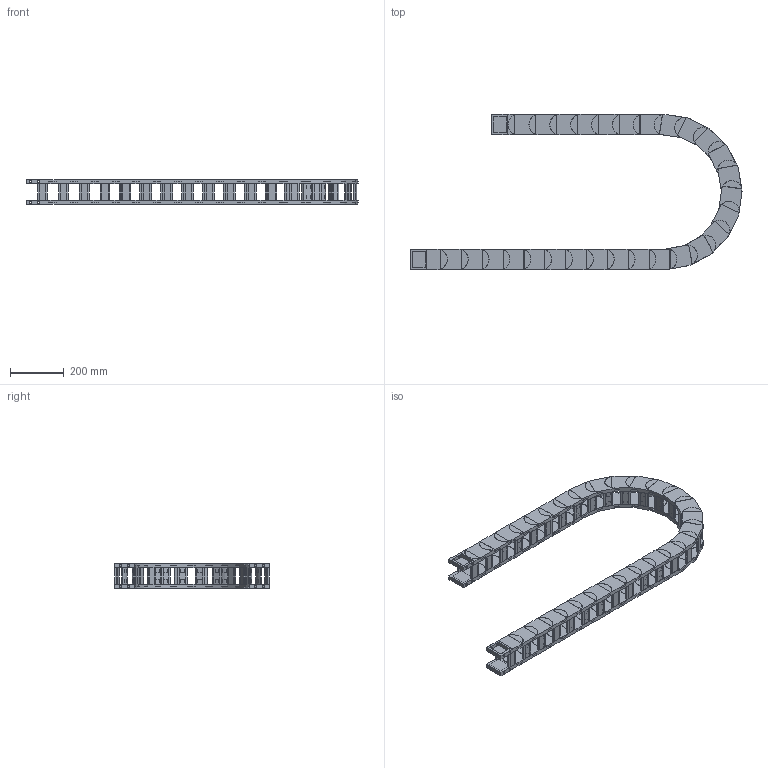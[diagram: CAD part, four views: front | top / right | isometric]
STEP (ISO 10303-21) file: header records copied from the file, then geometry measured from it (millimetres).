
FILE_DESCRIPTION((''),'2;1');
FILE_NAME('HD55-R250-ZPT_ASM','2022-06-17T19:52:44',('admin'),(''),'CREO PARAMETRIC BY PTC INC, 2021164','CREO PARAMETRIC BY PTC INC, 2021164','');
FILE_SCHEMA(('CONFIG_CONTROL_DESIGN','GEOMETRIC_VALIDATION_PROPERTIES_MIM'));
Length unit declared in the file: millimetre
Products named in the file (6): HD-55; 55-500001; HD55_ASM; H55-T1; H55-T2; HD55-R250-ZPT_ASM
Assembly tree (34 placements, depth 3):
  HD55-R250-ZPT_ASM
    HD55_ASM  x28
      HD-55
      55-500001
    H55-T1
    H55-T2
    55-500001  x2
Bounding box: 1233.09 x 575.89 x 92.3 mm (x, y, z)
Volume: 6364652.1 mm3; surface area: 2002910.8 mm2
Topology: 120 solids, 120 shells, 1982 faces, 5086 edges, 3468 vertices
Faces by surface type: plane 1640, cylinder 342
Entity records: 8831 total; most frequent: CARTESIAN_POINT 1304, DIRECTION 1266, ORIENTED_EDGE 1172, EDGE_CURVE 586, AXIS2_PLACEMENT_3D 424, VECTOR 418, LINE 418, VERTEX_POINT 396
